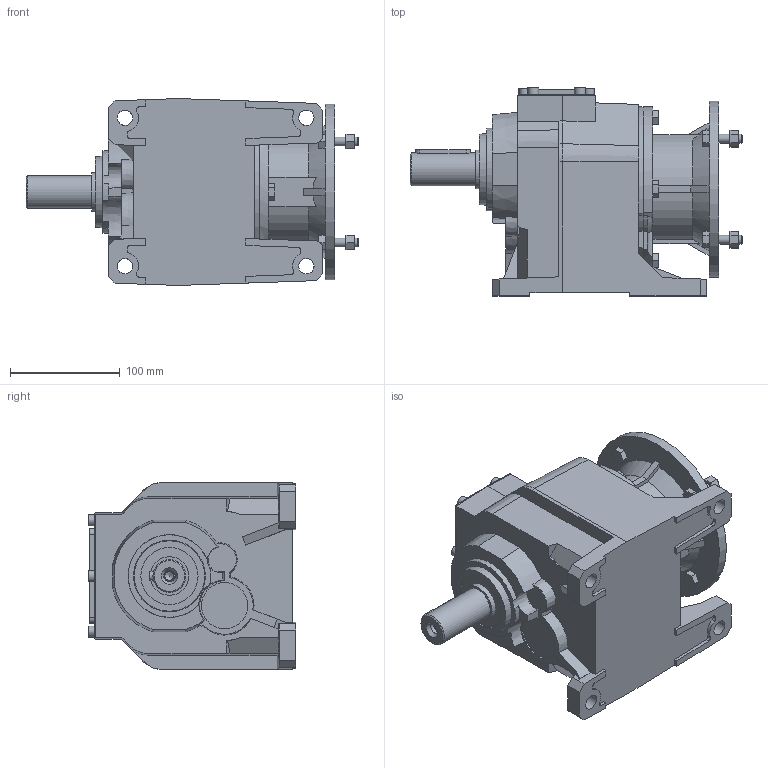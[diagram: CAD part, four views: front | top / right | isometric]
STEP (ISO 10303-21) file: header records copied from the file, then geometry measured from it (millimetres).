
FILE_DESCRIPTION(/* description */ ('STEP AP214'),/* implementation_level */ '2;1');
FILE_NAME(/* name */ 'H042T71 B530x600NO----(-NO----------)',/* time_stamp */ '2024-11-05T10:07:06+01:00',/* author */ ('License CC BY-ND 4.0'),/* organization */ ('CADENAS'),/* preprocessor_version */ 'ST-DEVELOPER v19.3',/* originating_system */ 'PARTsolutions',/* authorisation */ ' ');
FILE_SCHEMA (('AUTOMOTIVE_DESIGN {1 0 10303 214 3 1 1}'));
Length unit declared in the file: millimetre
Products named in the file (5): H042T71 B530x600NO----(-NO----------); 042 T; 042-H-160x14(71 B51); 042-160x14; 042T30-1
Assembly tree (4 placements, depth 2):
  H042T71 B530x600NO----(-NO----------)
    042 T
    042-H-160x14(71 B51)
    042-160x14
    042T30-1
Bounding box: 302 x 189 x 170 mm (x, y, z)
Volume: 4120956.7 mm3; surface area: 289966.3 mm2
Topology: 4 solids, 4 shells, 440 faces, 1140 edges, 760 vertices
Faces by surface type: plane 326, cylinder 78, cone 33, torus 3
Full cylindrical faces by diameter (mm): 5.838 x3, 8 x8, 8.376 x1, 10 x6, 10.5 x1, 14 x4, 20 x2, 25 x1, 30 x1, 35 x1, 42 x1, 52 x1, 110 x3, 160 x1
Entity records: 16070 total; most frequent: CARTESIAN_POINT 2440, ORIENTED_EDGE 2156, DIRECTION 2131, EDGE_CURVE 1078, LINE 817, VECTOR 817, VERTEX_POINT 744, AXIS2_PLACEMENT_3D 657
